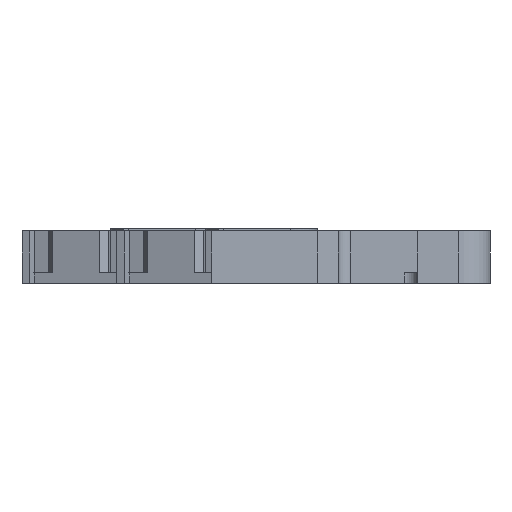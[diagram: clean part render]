
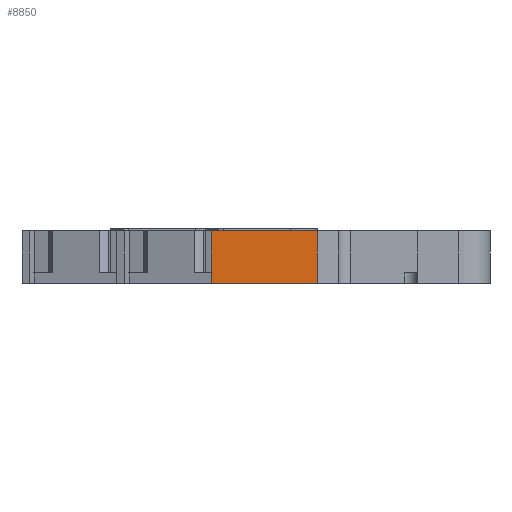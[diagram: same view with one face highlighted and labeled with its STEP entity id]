
A CAD part, left-side view. The second image highlights one B-rep face of the part: STEP entity #8850.
In plain terms, the highlighted planar face has unit normal (-1, 0, 0).
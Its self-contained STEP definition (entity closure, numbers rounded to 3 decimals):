
#240 = CARTESIAN_POINT ( 'NONE',  ( -43.6, 19.5, -5. ) ) ;
#1017 = ORIENTED_EDGE ( 'NONE', *, *, #13627, .F. ) ;
#1032 = ORIENTED_EDGE ( 'NONE', *, *, #14321, .T. ) ;
#1610 = VERTEX_POINT ( 'NONE', #12448 ) ;
#3770 = CARTESIAN_POINT ( 'NONE',  ( -43.6, 9.5, -5. ) ) ;
#3813 = CARTESIAN_POINT ( 'NONE',  ( -43.6, 19.5, -5. ) ) ;
#3897 = ORIENTED_EDGE ( 'NONE', *, *, #19783, .T. ) ;
#6107 = VERTEX_POINT ( 'NONE', #21899 ) ;
#7100 = CARTESIAN_POINT ( 'NONE',  ( -43.6, 19.5, -5. ) ) ;
#7248 = LINE ( 'NONE', #3770, #22613 ) ;
#8850 = ADVANCED_FACE ( 'NONE', ( #14656 ), #11179, .F. ) ;
#9646 = CARTESIAN_POINT ( 'NONE',  ( -43.6, 9.5, -5. ) ) ;
#10590 = LINE ( 'NONE', #7100, #14379 ) ;
#10696 = CARTESIAN_POINT ( 'NONE',  ( -43.6, 12.719, 0. ) ) ;
#10703 = LINE ( 'NONE', #240, #17622 ) ;
#10710 = VECTOR ( 'NONE', #21156, 1000. ) ;
#11084 = LINE ( 'NONE', #10696, #10710 ) ;
#11179 = PLANE ( 'NONE',  #18014 ) ;
#11439 = EDGE_CURVE ( 'NONE', #6107, #13987, #11084, .T. ) ;
#12377 = ORIENTED_EDGE ( 'NONE', *, *, #11439, .F. ) ;
#12448 = CARTESIAN_POINT ( 'NONE',  ( -43.6, 19.5, -5. ) ) ;
#13627 = EDGE_CURVE ( 'NONE', #1610, #6107, #10703, .T. ) ;
#13678 = EDGE_LOOP ( 'NONE', ( #1017, #3897, #1032, #12377 ) ) ;
#13810 = DIRECTION ( 'NONE',  ( 0., 0., 1. ) ) ;
#13987 = VERTEX_POINT ( 'NONE', #14239 ) ;
#14239 = CARTESIAN_POINT ( 'NONE',  ( -43.6, 9.5, 0. ) ) ;
#14321 = EDGE_CURVE ( 'NONE', #18515, #13987, #7248, .T. ) ;
#14379 = VECTOR ( 'NONE', #20660, 1000. ) ;
#14656 = FACE_OUTER_BOUND ( 'NONE', #13678, .T. ) ;
#16591 = DIRECTION ( 'NONE',  ( 0., 0., -1. ) ) ;
#17329 = DIRECTION ( 'NONE',  ( 0., 0., 1. ) ) ;
#17622 = VECTOR ( 'NONE', #13810, 1000. ) ;
#18014 = AXIS2_PLACEMENT_3D ( 'NONE', #3813, #21257, #16591 ) ;
#18515 = VERTEX_POINT ( 'NONE', #9646 ) ;
#19783 = EDGE_CURVE ( 'NONE', #1610, #18515, #10590, .T. ) ;
#20660 = DIRECTION ( 'NONE',  ( 0., -1., 0. ) ) ;
#21156 = DIRECTION ( 'NONE',  ( 0., -1., 0. ) ) ;
#21257 = DIRECTION ( 'NONE',  ( 1., 0., 0. ) ) ;
#21899 = CARTESIAN_POINT ( 'NONE',  ( -43.6, 19.5, 0. ) ) ;
#22613 = VECTOR ( 'NONE', #17329, 1000. ) ;
